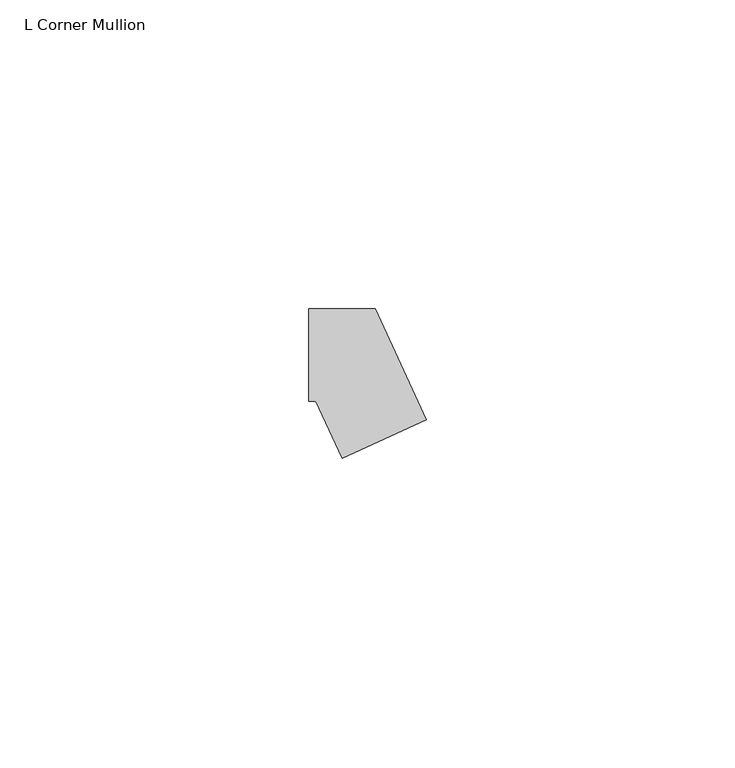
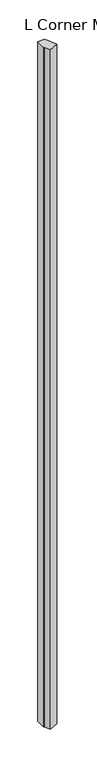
"""IFC4 building model written with IfcOpenShell, lengths in millimetres: member geometry, L Corner Mullion : ARQ_HERR_15X6mm."""

import ifcopenshell
import ifcopenshell.guid

model = None  # the IFC model being written
_history = None  # IfcOwnerHistory: only IFC2X3 demands one
_inside = {}  # id of a spatial element -> (the spatial element, [elements in it])
_under = {}  # id of a project, library or spatial element -> (it, [spatial elements below it])
_declared = {}  # id of a project -> (the project, [libraries it declares])
_typed = {}  # id of a type object -> (the type object, [elements of that type])
_made_of = {}  # id of a material, layer set ... -> (it, [elements and type objects made of it])


def new_model(schema):
    """Start an empty IFC model of exactly this schema.

    Asked for "IFC4X3", IfcOpenShell would pick the latest addendum, in which some entities
    have other attributes; the version numbers below select the first issue.
    IFC2X3 requires an IfcOwnerHistory on every rooted entity: one is made here for all.
    """
    global model, _history
    if schema == "IFC4X3":
        model = ifcopenshell.file(schema_version=(4, 3, 0, 0))
    else:
        model = ifcopenshell.file(schema=schema)
    _inside.clear()
    _under.clear()
    _declared.clear()
    _typed.clear()
    _made_of.clear()
    _history = None
    if model.schema == "IFC2X3":
        org = make("IfcOrganization", Name="unknown")
        user = make(
            "IfcPersonAndOrganization",
            ThePerson=make("IfcPerson", FamilyName="unknown"),
            TheOrganization=org,
        )
        app = make(
            "IfcApplication",
            ApplicationDeveloper=org,
            Version="unknown",
            ApplicationFullName="unknown",
            ApplicationIdentifier="unknown",
        )
        _history = make(
            "IfcOwnerHistory",
            OwningUser=user,
            OwningApplication=app,
            ChangeAction="ADDED",
            CreationDate=0,
        )
    return model


def make(cls, **values):
    """One entity of the class cls with the attributes given. An attribute that is None is left unset."""
    return model.create_entity(
        cls, **{name: value for name, value in values.items() if value is not None}
    )


def rooted(cls, **values):
    """An entity with a GlobalId (a new one), such as an element, a storey or a relation."""
    return make(cls, GlobalId=ifcopenshell.guid.new(), OwnerHistory=_history, **values)


def si_unit(unit_type, name, prefix=None):
    """IfcSIUnit, for example si_unit("LENGTHUNIT", "METRE", prefix="MILLI")."""
    return make("IfcSIUnit", UnitType=unit_type, Prefix=prefix, Name=name)


def assignment(units):
    """IfcUnitAssignment: the units of a project."""
    return None if units is None else make("IfcUnitAssignment", Units=units)


def point(xyz):
    """IfcCartesianPoint."""
    return None if xyz is None else make("IfcCartesianPoint", Coordinates=xyz)


def direction(xyz):
    """IfcDirection."""
    return None if xyz is None else make("IfcDirection", DirectionRatios=xyz)


def frame(location, z_axis=None, x_axis=None):
    """IfcAxis2Placement3D, a coordinate frame: its origin and axes. An axis left out is left unset."""
    return make(
        "IfcAxis2Placement3D",
        Location=point(location),
        Axis=direction(z_axis),
        RefDirection=direction(x_axis),
    )


def origin():
    """The frame at (0, 0, 0) with its axes left unset."""
    return frame((0.0, 0.0, 0.0))


def place(relative_to, where):
    """IfcLocalPlacement: puts the frame where relative to a parent placement (None: the world)."""
    return make(
        "IfcLocalPlacement", PlacementRelTo=relative_to, RelativePlacement=where
    )


def context(
    kind, dimensions, precision=None, world=None, true_north=None, identifier=None
):
    """IfcGeometricRepresentationContext, for example the 3D "Model" context."""
    return make(
        "IfcGeometricRepresentationContext",
        ContextIdentifier=identifier,
        ContextType=kind,
        CoordinateSpaceDimension=dimensions,
        Precision=precision,
        WorldCoordinateSystem=world,
        TrueNorth=true_north,
    )


def project(units=None, contexts=None):
    """IfcProject with its units and contexts."""
    return rooted(
        "IfcProject",
        Name="project",
        RepresentationContexts=contexts,
        UnitsInContext=assignment(units),
    )


def spatial(cls, under=None, at=None, **own):
    """A site, building, storey or space (cls), placed at a placement, below another one or the project."""
    s = rooted(cls, ObjectPlacement=at, **own)
    if under is not None:
        _under.setdefault(under.id(), (under, []))[1].append(s)
    return s


def polyline(points):
    """IfcPolyline through the points."""
    return make("IfcPolyline", Points=[point(p) for p in points])


def outline(outer, holes=None, kind="AREA"):
    """IfcArbitraryClosedProfileDef: a profile drawn as a closed curve; with holes, ...WithVoids."""
    if holes is None:
        return make("IfcArbitraryClosedProfileDef", ProfileType=kind, OuterCurve=outer)
    return make(
        "IfcArbitraryProfileDefWithVoids",
        ProfileType=kind,
        OuterCurve=outer,
        InnerCurves=holes,
    )


def extrude(swept, where, along, depth):
    """IfcExtrudedAreaSolid: the profile swept, set in the frame where, extruded along a direction by depth."""
    return make(
        "IfcExtrudedAreaSolid",
        SweptArea=swept,
        Position=where,
        ExtrudedDirection=direction(along),
        Depth=depth,
    )


def shape(context_of_items, identifier, shape_type, items):
    """IfcShapeRepresentation: the items that make up one representation, for example the "Body"."""
    return make(
        "IfcShapeRepresentation",
        ContextOfItems=context_of_items,
        RepresentationIdentifier=identifier,
        RepresentationType=shape_type,
        Items=items,
    )


def source(mapping_origin, context_of_items, identifier, shape_type, items):
    """IfcRepresentationMap: a shape defined once, which mapped items show again and again."""
    return make(
        "IfcRepresentationMap",
        MappingOrigin=mapping_origin,
        MappedRepresentation=shape(context_of_items, identifier, shape_type, items),
    )


def transform(
    local_origin,
    x_axis=None,
    y_axis=None,
    z_axis=None,
    scale=None,
    scale2=None,
    scale3=None,
    uniform=True,
):
    """IfcCartesianTransformationOperator3D, or its non-uniform kind. x_axis, y_axis, z_axis: its Axis1, 2, 3."""
    if uniform:
        return make(
            "IfcCartesianTransformationOperator3D",
            Axis1=direction(x_axis),
            Axis2=direction(y_axis),
            LocalOrigin=point(local_origin),
            Scale=scale,
            Axis3=direction(z_axis),
        )
    return make(
        "IfcCartesianTransformationOperator3DnonUniform",
        Axis1=direction(x_axis),
        Axis2=direction(y_axis),
        LocalOrigin=point(local_origin),
        Scale=scale,
        Axis3=direction(z_axis),
        Scale2=scale2,
        Scale3=scale3,
    )


def mapped(mapping_source, mapping_target):
    """IfcMappedItem: shows the shape of a source again, moved by a transform."""
    return make(
        "IfcMappedItem", MappingSource=mapping_source, MappingTarget=mapping_target
    )


def made_of(thing, what):
    """Note that an element or type object is made of a material, layer set ...; save() writes the relation."""
    if what is not None:
        _made_of.setdefault(what.id(), (what, []))[1].append(thing)
    return thing


def element(
    cls,
    number,
    at=None,
    inside=None,
    cuts=None,
    type_object=None,
    material=None,
    context=None,
    identifier="Body",
    shape_type=None,
    held_by="IfcProductDefinitionShape",
    body=None,
    shapes=None,
    **own,
):
    """One element of the class cls, such as IfcWall. Its Tag is "e" and its number.

    at: its placement. inside: the storey or other place that contains it. cuts: it is an
    opening in that element (IfcRelVoidsElement). A single representation is given by context,
    identifier, shape_type and body (its items); several are given by shapes. held_by: the class
    of the entity that holds the representations. save() writes the other relations.
    """
    e = rooted(cls, Tag="e%d" % number, ObjectPlacement=at, **own)
    if body is not None:
        shapes = [shape(context, identifier, shape_type, body)]
    if shapes is not None:
        e.Representation = make(held_by, Representations=shapes)
    if inside is not None:
        _inside.setdefault(inside.id(), (inside, []))[1].append(e)
    if cuts is not None:
        rooted(
            "IfcRelVoidsElement", RelatingBuildingElement=cuts, RelatedOpeningElement=e
        )
    if type_object is not None:
        _typed.setdefault(type_object.id(), (type_object, []))[1].append(e)
    return made_of(e, material)


def aggregate(whole, parts):
    """IfcRelAggregates: a whole, such as a stair, and the parts it consists of."""
    return rooted("IfcRelAggregates", RelatingObject=whole, RelatedObjects=parts)


def save(model, path):
    """Write the relations noted so far, then the file.

    IfcRelAggregates (storeys below a building ...), IfcRelContainedInSpatialStructure (elements
    in a storey), IfcRelDefinesByType, IfcRelAssociatesMaterial and IfcRelDeclares: one each for
    every whole, place, type object, material and project.
    """
    for whole, parts in _under.values():
        aggregate(whole, parts)
    for where, things in _inside.values():
        rooted(
            "IfcRelContainedInSpatialStructure",
            RelatedElements=things,
            RelatingStructure=where,
        )
    for kind, things in _typed.values():
        rooted("IfcRelDefinesByType", RelatedObjects=things, RelatingType=kind)
    for what, things in _made_of.values():
        rooted("IfcRelAssociatesMaterial", RelatedObjects=things, RelatingMaterial=what)
    for by, libraries in _declared.values():
        rooted("IfcRelDeclares", RelatingContext=by, RelatedDefinitions=libraries)
    model.write(path)


def l_corner_mullion_decce2e3(model_context):
    return source(origin(), model_context, "Body", "SweptSolid", [
        extrude(outline(polyline([(-0.5775282, -16.7605627), (-4.8156946, -7.5), (-6.0, -7.5), (-6.0, 7.5), (4.8156946, 7.5), (13.0619332, -10.5183601), (-0.5775282, -16.7605627)])), frame((0.0, 0.0, -1100.6872549), z_axis=(0.0, 0.0, 1.0), x_axis=(1.0, 0.0, 0.0)), (0.0, 0.0, 1.0), 1100.6872549),
    ])


if __name__ == "__main__":
    model = new_model("IFC4")
    model_context = context("Model", 3, world=origin())
    ifc_project = project(units=[si_unit("LENGTHUNIT", "METRE", prefix="MILLI")], contexts=[model_context])
    site = spatial("IfcSite", under=ifc_project)
    building = spatial("IfcBuilding", under=site)
    placement = place(None, origin())
    l_corner_mullion_shape = l_corner_mullion_decce2e3(model_context)
    element("IfcMember", 1, ObjectType="L Corner Mullion : ARQ_HERR_15X6mm", at=placement, inside=building, context=model_context, shape_type="MappedRepresentation", body=[
        mapped(l_corner_mullion_shape, transform((0.0, 0.0, 0.0), x_axis=(1.0, 0.0, 0.0), y_axis=(0.0, 1.0, 0.0), z_axis=(0.0, 0.0, 1.0))),
    ])
    save(model, "model.ifc")
